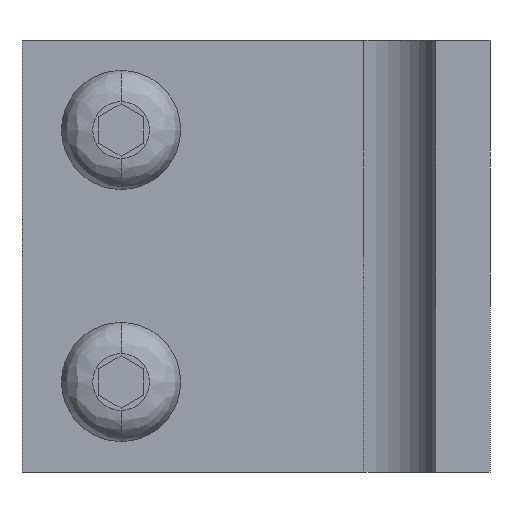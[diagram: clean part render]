
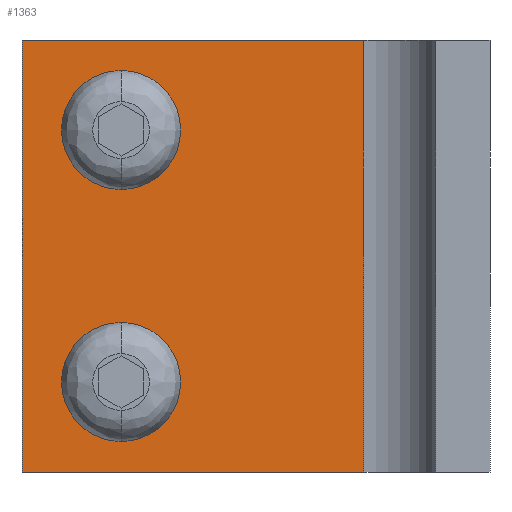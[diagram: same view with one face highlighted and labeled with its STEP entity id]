
A CAD part, left-side view. The second image highlights one B-rep face of the part: STEP entity #1363.
In plain terms, the highlighted planar face has unit normal (-1, 0, 0).
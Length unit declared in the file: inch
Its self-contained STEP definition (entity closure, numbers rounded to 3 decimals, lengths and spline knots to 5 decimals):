
#33=DIRECTION('',(0.,0.,-1.));
#34=VECTOR('',#33,1.5);
#35=CARTESIAN_POINT('',(0.,0.25,0.75));
#36=LINE('',#35,#34);
#125=DIRECTION('',(0.,-1.,0.));
#126=VECTOR('',#125,1.187);
#127=CARTESIAN_POINT('',(0.,1.437,0.75));
#128=LINE('',#127,#126);
#129=CARTESIAN_POINT('',(0.,1.093,0.4375));
#130=DIRECTION('',(-1.,0.,0.));
#131=DIRECTION('',(0.,-1.,0.));
#132=AXIS2_PLACEMENT_3D('',#129,#130,#131);
#134=CARTESIAN_POINT('',(0.,1.093,0.4375));
#135=DIRECTION('',(-1.,0.,0.));
#136=DIRECTION('',(0.,1.,0.));
#137=AXIS2_PLACEMENT_3D('',#134,#135,#136);
#139=CARTESIAN_POINT('',(0.,1.093,-0.4375));
#140=DIRECTION('',(-1.,0.,0.));
#141=DIRECTION('',(0.,-1.,0.));
#142=AXIS2_PLACEMENT_3D('',#139,#140,#141);
#144=CARTESIAN_POINT('',(0.,1.093,-0.4375));
#145=DIRECTION('',(-1.,0.,0.));
#146=DIRECTION('',(0.,1.,0.));
#147=AXIS2_PLACEMENT_3D('',#144,#145,#146);
#149=DIRECTION('',(0.,-1.,0.));
#150=VECTOR('',#149,1.187);
#151=CARTESIAN_POINT('',(0.,1.437,-0.75));
#152=LINE('',#151,#150);
#161=DIRECTION('',(0.,0.,-1.));
#162=VECTOR('',#161,1.5);
#163=CARTESIAN_POINT('',(0.,1.437,0.75));
#164=LINE('',#163,#162);
#909=CARTESIAN_POINT('',(0.,0.25,0.75));
#910=VERTEX_POINT('',#909);
#913=CARTESIAN_POINT('',(0.,0.25,-0.75));
#914=VERTEX_POINT('',#913);
#937=CARTESIAN_POINT('',(0.,1.437,0.75));
#938=VERTEX_POINT('',#937);
#939=CARTESIAN_POINT('',(0.,1.437,-0.75));
#940=VERTEX_POINT('',#939);
#1125=CARTESIAN_POINT('',(0.,0.88631,0.4375));
#1126=CARTESIAN_POINT('',(0.,1.29969,0.4375));
#1127=VERTEX_POINT('',#1125);
#1128=VERTEX_POINT('',#1126);
#1133=CARTESIAN_POINT('',(0.,0.88631,-0.4375));
#1134=CARTESIAN_POINT('',(0.,1.29969,-0.4375));
#1135=VERTEX_POINT('',#1133);
#1136=VERTEX_POINT('',#1134);
#1338=CARTESIAN_POINT('',(0.,0.8435,0.));
#1339=DIRECTION('',(1.,0.,0.));
#1340=DIRECTION('',(0.,-1.,0.));
#1341=AXIS2_PLACEMENT_3D('',#1338,#1339,#1340);
#1342=PLANE('',#1341);
#1343=ORIENTED_EDGE('',*,*,#1329,.T.);
#1344=ORIENTED_EDGE('',*,*,#1218,.T.);
#1346=ORIENTED_EDGE('',*,*,#1345,.F.);
#1348=ORIENTED_EDGE('',*,*,#1347,.F.);
#1349=EDGE_LOOP('',(#1343,#1344,#1346,#1348));
#1350=FACE_OUTER_BOUND('',#1349,.F.);
#1352=ORIENTED_EDGE('',*,*,#1351,.T.);
#1354=ORIENTED_EDGE('',*,*,#1353,.T.);
#1355=EDGE_LOOP('',(#1352,#1354));
#1356=FACE_BOUND('',#1355,.F.);
#1358=ORIENTED_EDGE('',*,*,#1357,.T.);
#1360=ORIENTED_EDGE('',*,*,#1359,.T.);
#1361=EDGE_LOOP('',(#1358,#1360));
#1362=FACE_BOUND('',#1361,.F.);
#133=CIRCLE('',#132,0.20669);
#138=CIRCLE('',#137,0.20669);
#143=CIRCLE('',#142,0.20669);
#148=CIRCLE('',#147,0.20669);
#1218=EDGE_CURVE('',#910,#914,#36,.T.);
#1329=EDGE_CURVE('',#938,#910,#128,.T.);
#1345=EDGE_CURVE('',#940,#914,#152,.T.);
#1347=EDGE_CURVE('',#938,#940,#164,.T.);
#1351=EDGE_CURVE('',#1127,#1128,#133,.T.);
#1353=EDGE_CURVE('',#1128,#1127,#138,.T.);
#1357=EDGE_CURVE('',#1135,#1136,#143,.T.);
#1359=EDGE_CURVE('',#1136,#1135,#148,.T.);
#1363=ADVANCED_FACE('',(#1350,#1356,#1362),#1342,.F.);
